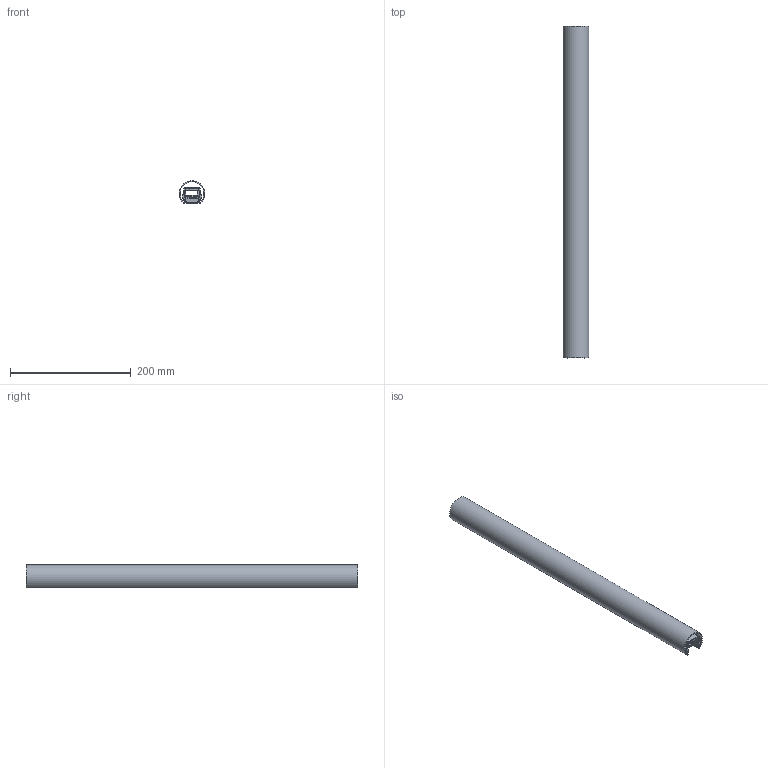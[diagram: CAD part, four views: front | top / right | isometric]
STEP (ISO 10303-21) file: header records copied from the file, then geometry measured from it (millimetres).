
FILE_DESCRIPTION(/* description */ ('STEP AP214'),/* implementation_level */ '2;1');
FILE_NAME(/* name */ '66fd4a697202d813c79aaa73',/* time_stamp */ '2024-10-02T13:28:10Z',/* author */ (''),/* organization */ (''),/* preprocessor_version */ 'ST-DEVELOPER v20',/* originating_system */ ' ',/* authorisation */ ' ');
FILE_SCHEMA (('AUTOMOTIVE_DESIGN {1 0 10303 214 3 1 1}'));
Length unit declared in the file: metre
Products named in the file (5): ULTRA-SAFE-42.4-Lilly-sym-asym; A000419_k; A001148; Lilly vereinfacht; A001179
Assembly tree (4 placements, depth 2):
  ULTRA-SAFE-42.4-Lilly-sym-asym
    A000419_k
    A001148
    Lilly vereinfacht
    A001179
Bounding box: 42.37 x 550 x 37 mm (x, y, z)
Volume: 316855.5 mm3; surface area: 261230.2 mm2
Topology: 4 solids, 4 shells, 180 faces, 474 edges, 305 vertices
Faces by surface type: plane 95, cylinder 77, bspline 8
Full cylindrical faces by diameter (mm): 4 x2, 4.2 x4, 5 x3, 6.6 x2
Entity records: 6880 total; most frequent: CARTESIAN_POINT 2307, DIRECTION 932, ORIENTED_EDGE 912, EDGE_CURVE 456, AXIS2_PLACEMENT_3D 315, LINE 302, VECTOR 302, VERTEX_POINT 298
